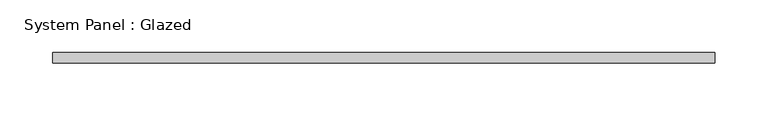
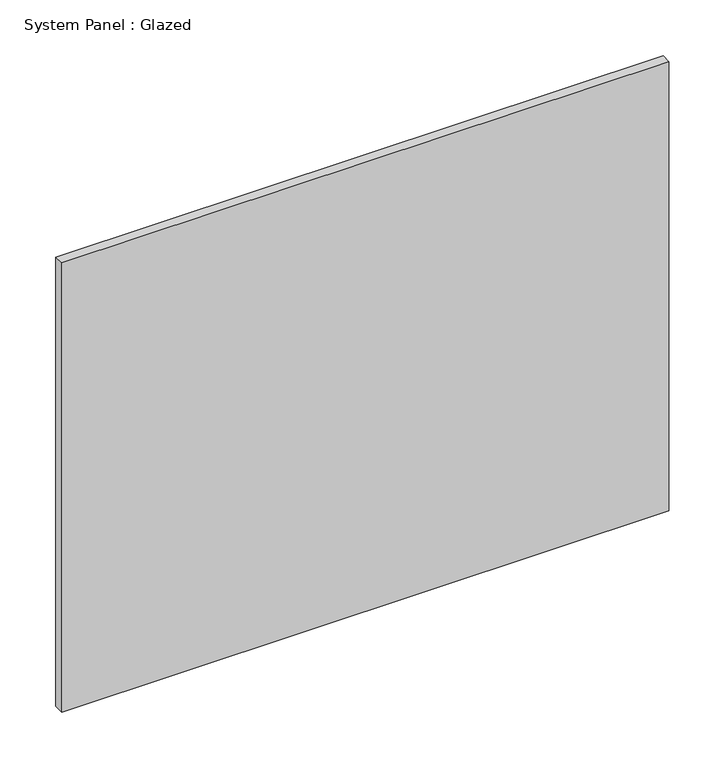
"""IFC4 building model written with IfcOpenShell, lengths in millimetres: plate geometry, System Panel : Glazed."""

from ifc_helpers import new_model, si_unit, origin, origin_with_axes, place, context, project, spatial, polyline, outline, extrude, source, transform, mapped, element, save


def system_panel_glazed_a2efd868(model_context):
    return source(origin(), model_context, "Body", "SweptSolid", [
        extrude(outline(polyline([(312.9941815, -5.0), (-312.9941815, -5.0), (-312.9941815, 5.0), (312.9941815, 5.0), (312.9941815, -5.0)])), origin_with_axes(), (0.0, 0.0, 1.0), 490.0),
    ])


if __name__ == "__main__":
    model = new_model("IFC4")
    model_context = context("Model", 3, world=origin())
    ifc_project = project(units=[si_unit("LENGTHUNIT", "METRE", prefix="MILLI")], contexts=[model_context])
    site = spatial("IfcSite", under=ifc_project)
    building = spatial("IfcBuilding", under=site)
    placement = place(None, origin())
    system_panel_glazed_shape = system_panel_glazed_a2efd868(model_context)
    element("IfcPlate", 1, ObjectType="System Panel : Glazed", at=placement, inside=building, context=model_context, shape_type="MappedRepresentation", body=[
        mapped(system_panel_glazed_shape, transform((0.0, 0.0, 0.0), x_axis=(1.0, 0.0, 0.0), y_axis=(0.0, 1.0, 0.0), z_axis=(0.0, 0.0, 1.0))),
    ])
    save(model, "model.ifc")
